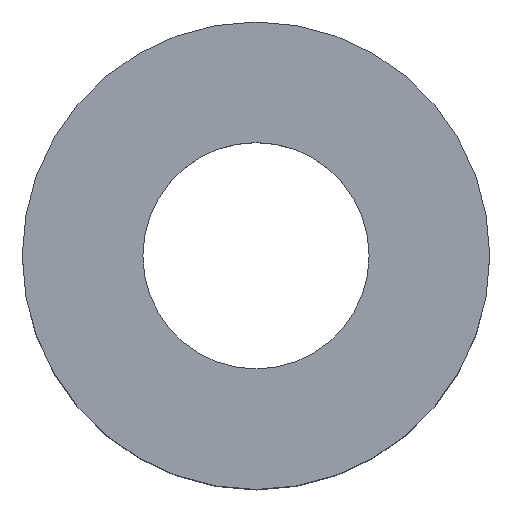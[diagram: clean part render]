
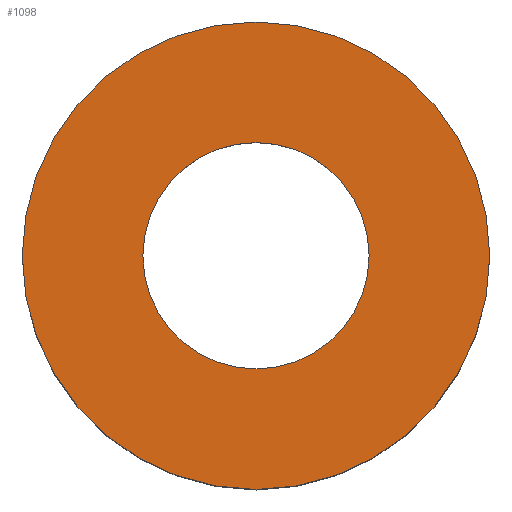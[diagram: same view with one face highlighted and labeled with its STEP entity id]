
A CAD part, top view. The second image highlights one B-rep face of the part: STEP entity #1098.
In plain terms, the highlighted planar face has unit normal (0, 0, 1).
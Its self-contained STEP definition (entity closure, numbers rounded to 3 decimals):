
#48=AXIS2_PLACEMENT_3D('Circle Axis2P3D',#46,#47,$) ;
#74=AXIS2_PLACEMENT_3D('Circle Axis2P3D',#72,#73,$) ;
#796=AXIS2_PLACEMENT_3D('Circle Axis2P3D',#794,#795,$) ;
#815=AXIS2_PLACEMENT_3D('Circle Axis2P3D',#813,#814,$) ;
#1088=AXIS2_PLACEMENT_3D('Plane Axis2P3D',#1085,#1086,#1087) ;
#41=CARTESIAN_POINT('Vertex',(-3.05,0.,4.)) ;
#46=CARTESIAN_POINT('Axis2P3D Location',(0.,0.,4.)) ;
#50=CARTESIAN_POINT('Vertex',(3.05,0.,4.)) ;
#72=CARTESIAN_POINT('Axis2P3D Location',(0.,0.,4.)) ;
#791=CARTESIAN_POINT('Vertex',(6.3,0.,4.)) ;
#794=CARTESIAN_POINT('Axis2P3D Location',(0.,0.,4.)) ;
#798=CARTESIAN_POINT('Vertex',(-6.3,0.,4.)) ;
#813=CARTESIAN_POINT('Axis2P3D Location',(0.,0.,4.)) ;
#1085=CARTESIAN_POINT('Axis2P3D Location',(0.,0.,4.)) ;
#47=DIRECTION('Axis2P3D Direction',(0.,0.,1.)) ;
#73=DIRECTION('Axis2P3D Direction',(0.,0.,1.)) ;
#795=DIRECTION('Axis2P3D Direction',(0.,0.,1.)) ;
#814=DIRECTION('Axis2P3D Direction',(0.,0.,1.)) ;
#1086=DIRECTION('Axis2P3D Direction',(0.,0.,1.)) ;
#1087=DIRECTION('Axis2P3D XDirection',(1.,0.,0.)) ;
#1091=ORIENTED_EDGE('',*,*,#800,.T.) ;
#1092=ORIENTED_EDGE('',*,*,#817,.T.) ;
#1095=ORIENTED_EDGE('',*,*,#52,.F.) ;
#1096=ORIENTED_EDGE('',*,*,#76,.F.) ;
#1097=FACE_BOUND('',#1094,.T.) ;
#1098=ADVANCED_FACE('\X2\96F64EF651E04F554F53\X0\',(#1093,#1097),#1089,.T.) ;
#49=CIRCLE('generated circle',#48,3.05) ;
#75=CIRCLE('generated circle',#74,3.05) ;
#797=CIRCLE('generated circle',#796,6.3) ;
#816=CIRCLE('generated circle',#815,6.3) ;
#52=EDGE_CURVE('',#42,#51,#49,.T.) ;
#76=EDGE_CURVE('',#51,#42,#75,.T.) ;
#800=EDGE_CURVE('',#799,#792,#797,.T.) ;
#817=EDGE_CURVE('',#792,#799,#816,.T.) ;
#1090=EDGE_LOOP('',(#1091,#1092)) ;
#1094=EDGE_LOOP('',(#1095,#1096)) ;
#1093=FACE_OUTER_BOUND('',#1090,.T.) ;
#1089=PLANE('',#1088) ;
#42=VERTEX_POINT('',#41) ;
#51=VERTEX_POINT('',#50) ;
#792=VERTEX_POINT('',#791) ;
#799=VERTEX_POINT('',#798) ;
